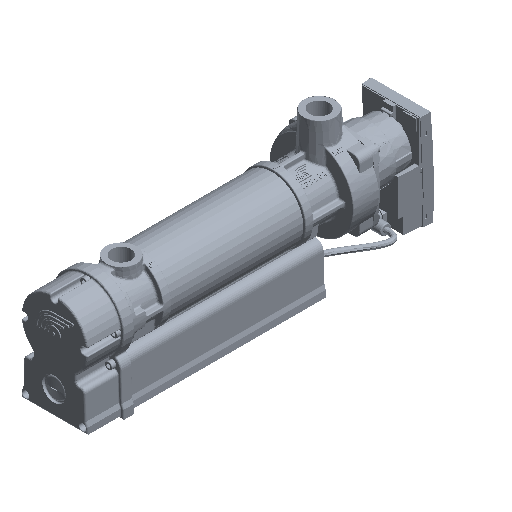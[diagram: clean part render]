
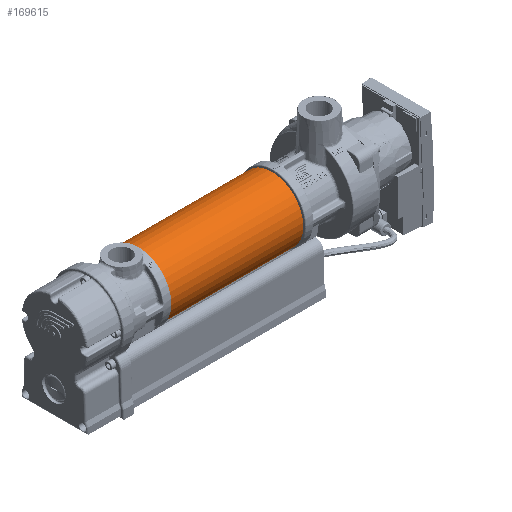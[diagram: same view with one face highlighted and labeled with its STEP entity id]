
A CAD part, isometric view. The second image highlights one B-rep face of the part: STEP entity #169615.
In plain terms, the highlighted cylindrical face has radius 37.5 mm (diameter 75 mm), a partial arc.
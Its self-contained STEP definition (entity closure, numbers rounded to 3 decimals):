
#3992 = DIRECTION ( 'NONE',  ( -1., 0., 0. ) ) ;
#12591 = VECTOR ( 'NONE', #71103, 1000. ) ;
#13926 = DIRECTION ( 'NONE',  ( 0., 0., 1. ) ) ;
#15164 = ORIENTED_EDGE ( 'NONE', *, *, #49706, .T. ) ;
#20269 = ORIENTED_EDGE ( 'NONE', *, *, #85778, .T. ) ;
#22248 = VERTEX_POINT ( 'NONE', #142184 ) ;
#23730 = CIRCLE ( 'NONE', #200198, 37.5 ) ;
#24384 = CARTESIAN_POINT ( 'NONE',  ( -28.727, 24.105, -102.829 ) ) ;
#33874 = DIRECTION ( 'NONE',  ( 0., 0., -1. ) ) ;
#43831 = CARTESIAN_POINT ( 'NONE',  ( -28.727, 24.105, 55.171 ) ) ;
#49706 = EDGE_CURVE ( 'NONE', #188420, #22248, #23730, .T. ) ;
#50404 = DIRECTION ( 'NONE',  ( -1., 0., 0. ) ) ;
#71103 = DIRECTION ( 'NONE',  ( 0., 0., 1. ) ) ;
#73553 = LINE ( 'NONE', #43831, #144733 ) ;
#80154 = DIRECTION ( 'NONE',  ( 0., 0., -1. ) ) ;
#83400 = ORIENTED_EDGE ( 'NONE', *, *, #110049, .F. ) ;
#84500 = CARTESIAN_POINT ( 'NONE',  ( -28.727, 24.105, 55.171 ) ) ;
#85206 = AXIS2_PLACEMENT_3D ( 'NONE', #248665, #218819, #188876 ) ;
#85778 = EDGE_CURVE ( 'NONE', #175044, #188420, #73553, .T. ) ;
#93404 = CARTESIAN_POINT ( 'NONE',  ( 0., 0., 55.171 ) ) ;
#100242 = AXIS2_PLACEMENT_3D ( 'NONE', #109963, #80154, #50404 ) ;
#100900 = CARTESIAN_POINT ( 'NONE',  ( -37.5, 0., 55.171 ) ) ;
#109963 = CARTESIAN_POINT ( 'NONE',  ( 0., 0., -102.829 ) ) ;
#110049 = EDGE_CURVE ( 'NONE', #291352, #22248, #130761, .T. ) ;
#130761 = LINE ( 'NONE', #100900, #12591 ) ;
#142184 = CARTESIAN_POINT ( 'NONE',  ( -37.5, 0., 55.171 ) ) ;
#144733 = VECTOR ( 'NONE', #13926, 1000. ) ;
#152843 = CYLINDRICAL_SURFACE ( 'NONE', #85206, 37.5 ) ;
#154090 = CIRCLE ( 'NONE', #100242, 37.5 ) ;
#161074 = EDGE_LOOP ( 'NONE', ( #182932, #20269, #15164, #83400 ) ) ;
#169615 = ADVANCED_FACE ( 'NONE', ( #188486 ), #152843, .T. ) ;
#174995 = CARTESIAN_POINT ( 'NONE',  ( -37.5, 0., -102.829 ) ) ;
#175044 = VERTEX_POINT ( 'NONE', #24384 ) ;
#182932 = ORIENTED_EDGE ( 'NONE', *, *, #199186, .F. ) ;
#188420 = VERTEX_POINT ( 'NONE', #84500 ) ;
#188486 = FACE_OUTER_BOUND ( 'NONE', #161074, .T. ) ;
#188876 = DIRECTION ( 'NONE',  ( -1., 0., 0. ) ) ;
#199186 = EDGE_CURVE ( 'NONE', #175044, #291352, #154090, .T. ) ;
#200198 = AXIS2_PLACEMENT_3D ( 'NONE', #93404, #33874, #3992 ) ;
#218819 = DIRECTION ( 'NONE',  ( 0., 0., -1. ) ) ;
#248665 = CARTESIAN_POINT ( 'NONE',  ( 0., 0., -122.404 ) ) ;
#291352 = VERTEX_POINT ( 'NONE', #174995 ) ;
